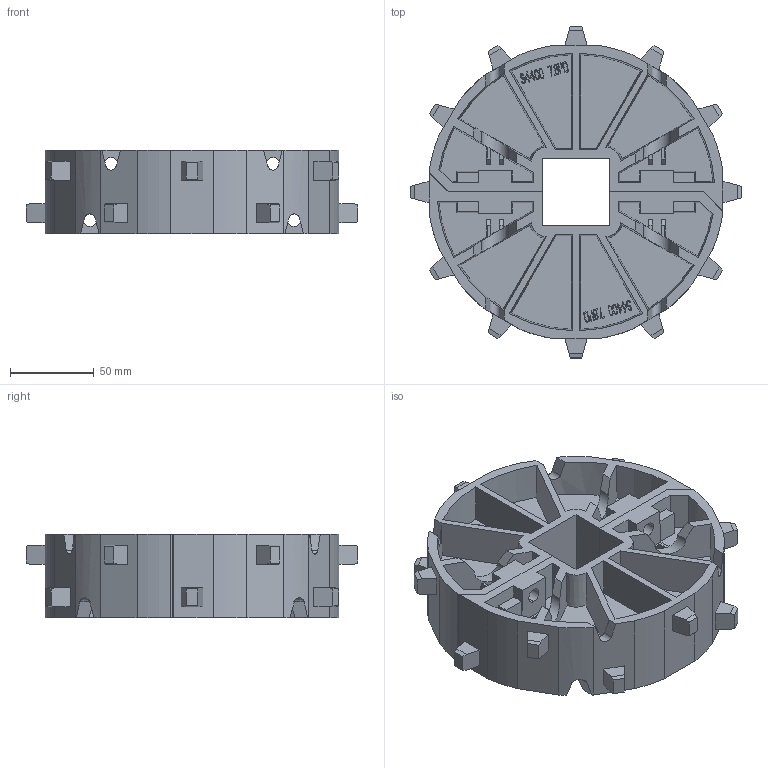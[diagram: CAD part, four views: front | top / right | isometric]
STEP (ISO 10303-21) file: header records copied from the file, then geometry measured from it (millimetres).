
FILE_DESCRIPTION((''),'2;1');
FILE_NAME('S4400_SPLIT_78X15_40_SQ_ASM','2015-04-28T',('jevans'),('INTRALOX'),'PRO/ENGINEER BY PARAMETRIC TECHNOLOGY CORPORATION, 2009460','PRO/ENGINEER BY PARAMETRIC TECHNOLOGY CORPORATION, 2009460','');
FILE_SCHEMA(('CONFIG_CONTROL_DESIGN'));
Length unit declared in the file: inch
Products named in the file (3): S4400_SPLIT_78X15_40_SQ_N_AF0; S4400_SPLIT_78X15_40_SQ_B_AF0; S4400_SPLIT_78X15_40_SQ_ASM
Assembly tree (2 placements, depth 2):
  S4400_SPLIT_78X15_40_SQ_ASM
    S4400_SPLIT_78X15_40_SQ_N_AF0
    S4400_SPLIT_78X15_40_SQ_B_AF0
Bounding box: 198 x 198 x 49.53 mm (x, y, z)
Volume: 475710.8 mm3; surface area: 188377.6 mm2
Topology: 2 solids, 2 shells, 1678 faces, 4710 edges, 3140 vertices
Faces by surface type: plane 1374, cylinder 272, cone 32
Entity records: 55026 total; most frequent: CARTESIAN_POINT 11195, ORIENTED_EDGE 9420, DIRECTION 8552, EDGE_CURVE 4710, VECTOR 3970, LINE 3970, VERTEX_POINT 3140, AXIS2_PLACEMENT_3D 2291
